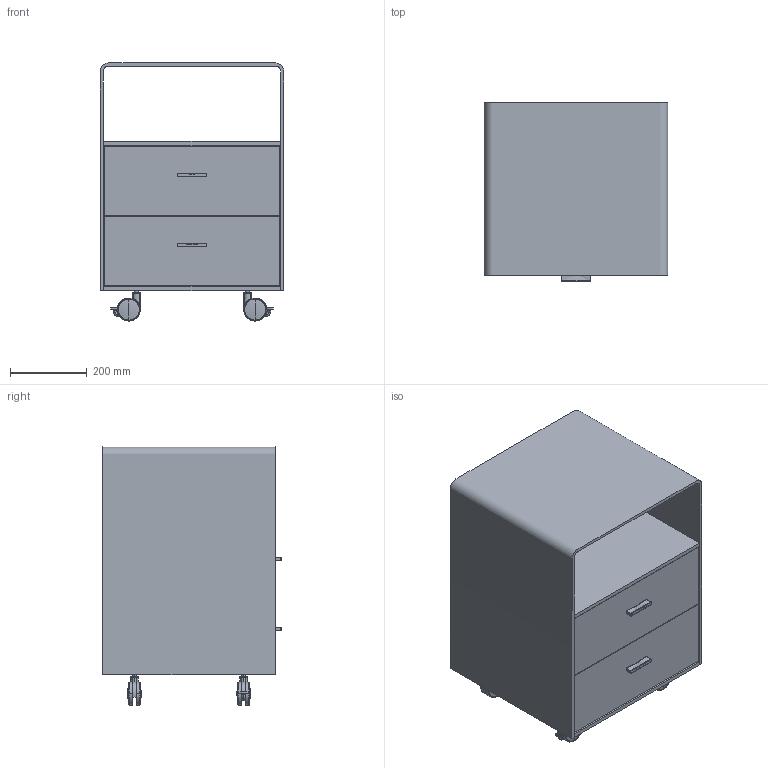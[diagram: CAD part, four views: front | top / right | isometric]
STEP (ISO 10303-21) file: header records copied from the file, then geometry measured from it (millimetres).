
FILE_DESCRIPTION(/* description */ (''),/* implementation_level */ '2;1');
FILE_NAME(/* name */ 'RI48 - Rialto Cassettiera',/* time_stamp */ '2012-06-20T17:48:32+02:00',/* author */ (''),/* organization */ (''),/* preprocessor_version */ 'ST-DEVELOPER v10',/* originating_system */ '',/* authorisation */ '');
FILE_SCHEMA (('CONFIG_CONTROL_DESIGN'));
Length unit declared in the file: millimetre
Products named in the file (1): 1
Bounding box: 480 x 465.5 x 673.96 mm (x, y, z)
Volume: 26023980.7 mm3; surface area: 5294724 mm2
Topology: 46 solids, 46 shells, 652 faces, 1384 edges, 780 vertices
Faces by surface type: bspline 440, plane 212
Entity records: 25504 total; most frequent: CARTESIAN_POINT 17382, ORIENTED_EDGE 2648, EDGE_CURVE 1324, VERTEX_POINT 780, EDGE_LOOP 684, ADVANCED_FACE 652, FACE_OUTER_BOUND 652, B_SPLINE_CURVE_WITH_KNOTS 476
